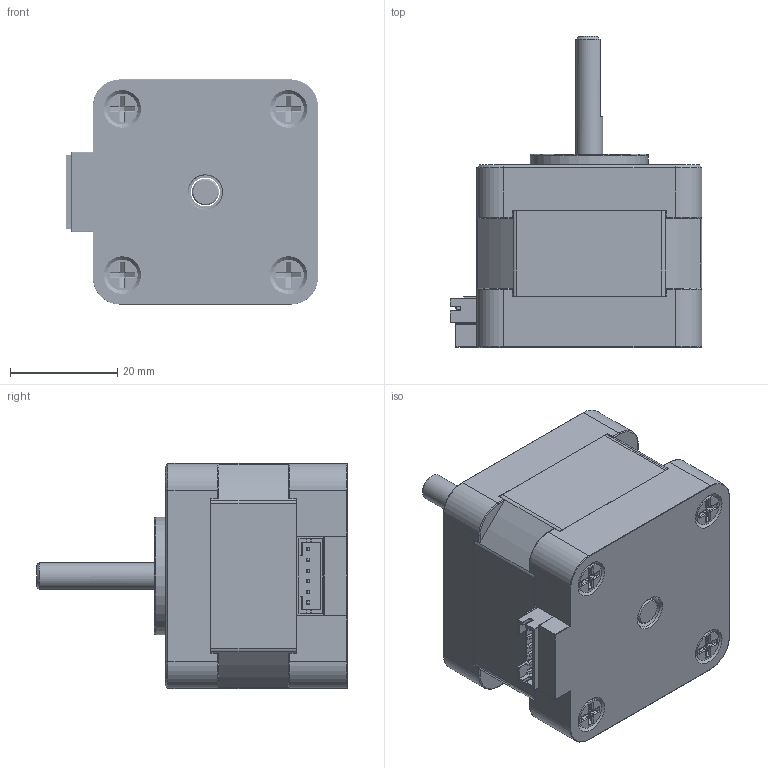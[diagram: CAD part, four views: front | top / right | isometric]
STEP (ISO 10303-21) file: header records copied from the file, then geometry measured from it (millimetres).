
FILE_DESCRIPTION(/* description */ (''),/* implementation_level */ '2;1');
FILE_NAME(/* name */ 'NEMA17-35-133-09 v1.step',/* time_stamp */ '2025-06-13T11:53:25+02:00',/* author */ (''),/* organization */ (''),/* preprocessor_version */ 'ST-DEVELOPER v20.1',/* originating_system */ 'Autodesk Translation Framework v14.10.0.0',/* authorisation */ '');
FILE_SCHEMA (('AUTOMOTIVE_DESIGN { 1 0 10303 214 3 1 1 }'));
Products named in the file (18): NEMA17-35-133-09; M4 Screw 20mm; M4 Screw 20mm (1); M4 Screw 20mm (2); M4 Screw 20mm (3); Shaft; Cap; Base; JST B6B-PH-K-S; Component5; Component7; Component6; Component10; Component8; Component11; Component9; Component17; Core Laminate
Assembly tree (17 placements, depth 3):
  NEMA17-35-133-09
    M4 Screw 20mm
    M4 Screw 20mm (1)
    M4 Screw 20mm (2)
    M4 Screw 20mm (3)
    Shaft
    Cap
    Base
    JST B6B-PH-K-S
      Component5
      Component7
      Component6
      Component10
      Component8
      Component11
      Component9
      Component17
    Core Laminate
Bounding box: 47.01 x 58 x 42 mm (x, y, z)
Volume: 44932.8 mm3; surface area: 21410.7 mm2
Topology: 16 solids, 16 shells, 997 faces, 2597 edges, 1647 vertices
Faces by surface type: cylinder 613, plane 274, sphere 54, torus 21, bspline 18, cone 17
Full cylindrical faces by diameter (mm): 2.529 x32, 3.086 x16, 3.111 x40, 3.529 x4, 3.908 x72, 4 x4, 4.168 x4, 5 x1, 5.4 x2, 5.75 x4, 6.2 x2, 22 x1, 30 x1
Entity records: 54093 total; most frequent: CARTESIAN_POINT 30341, ORIENTED_EDGE 5194, DIRECTION 4282, EDGE_CURVE 2597, VERTEX_POINT 1647, AXIS2_PLACEMENT_3D 1526, LINE 1230, VECTOR 1230
